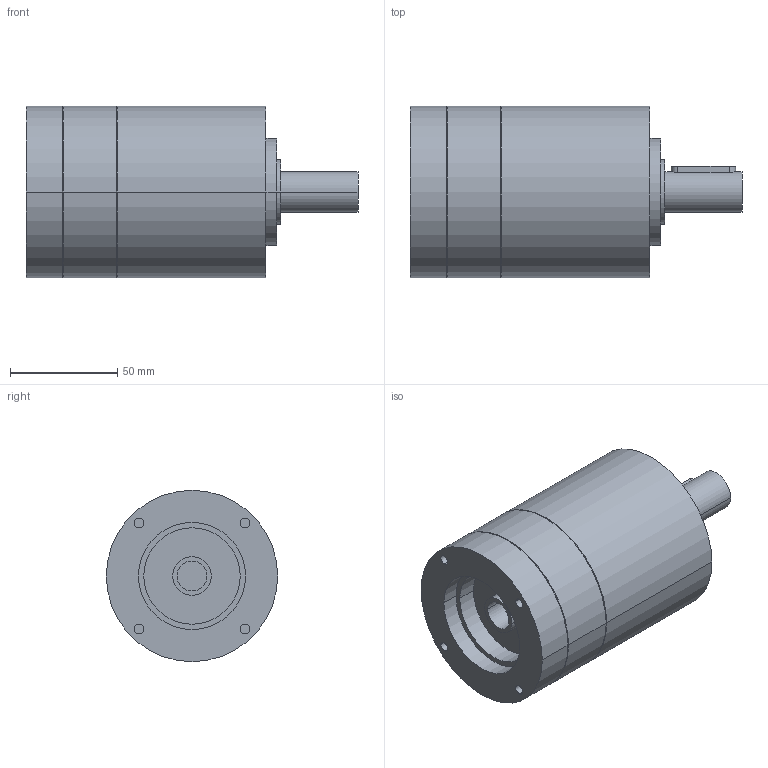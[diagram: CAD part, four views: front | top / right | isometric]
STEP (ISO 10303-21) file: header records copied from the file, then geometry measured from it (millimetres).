
FILE_DESCRIPTION(('CoCreate Modeling STEP Export'),'2;1');
FILE_NAME('GPR100_ig-3-4-5-6_19_B14_14_P15.stp','2014-08-26T10:07:11',(''),(''),'CoCreate Modeling STEP processor for AP214 (Solid Model)','CoCreate Modeling 16.00C 25-Feb-2009 (C) Parametric Technology GmbH','');
FILE_SCHEMA(('AUTOMOTIVE_DESIGN { 1 0 10303 214 1 1 1 1 }'));
Length unit declared in the file: millimetre
Products named in the file (2): GPR100_ig-3-4-5-6_19_B14_14_P15
Assembly tree (1 placements, depth 2):
  GPR100_ig-3-4-5-6_19_B14_14_P15
    GPR100_ig-3-4-5-6_19_B14_14_P15
Bounding box: 155 x 80 x 80 mm (x, y, z)
Volume: 548244.7 mm3; surface area: 48753.3 mm2
Topology: 1 solids, 1 shells, 80 faces, 203 edges, 145 vertices
Faces by surface type: cylinder 48, plane 26, cone 6
Entity records: 2036 total; most frequent: ORIENTED_EDGE 402, CARTESIAN_POINT 371, DIRECTION 264, EDGE_CURVE 201, VERTEX_POINT 145, AXIS2_PLACEMENT_3D 102, EDGE_LOOP 102, FACE_OUTER_BOUND 80
